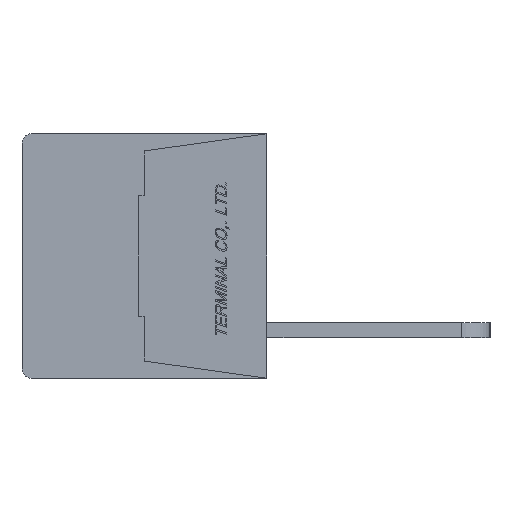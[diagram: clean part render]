
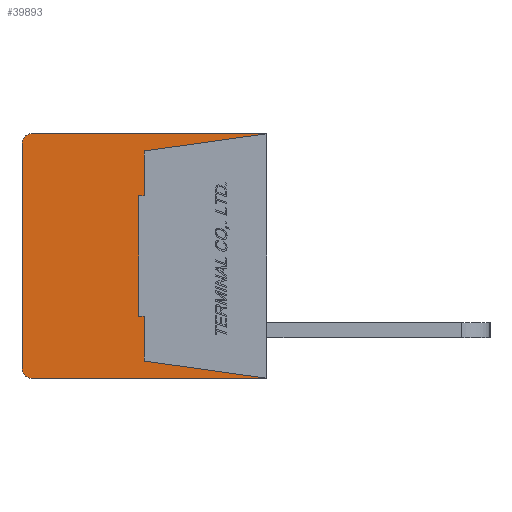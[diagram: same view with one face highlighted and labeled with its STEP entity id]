
A CAD part, left-side view. The second image highlights one B-rep face of the part: STEP entity #39893.
In plain terms, the highlighted planar face has unit normal (-1, 0, 0).
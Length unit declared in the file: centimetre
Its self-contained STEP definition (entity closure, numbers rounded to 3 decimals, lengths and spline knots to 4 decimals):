
#2053=CIRCLE('',#68344,0.05);
#2054=CIRCLE('',#68347,0.05);
#3551=VERTEX_POINT('',#55407);
#3552=VERTEX_POINT('',#55409);
#3553=VERTEX_POINT('',#55413);
#3554=VERTEX_POINT('',#55417);
#3555=VERTEX_POINT('',#55421);
#3556=VERTEX_POINT('',#55425);
#3557=VERTEX_POINT('',#55429);
#3558=VERTEX_POINT('',#55431);
#3559=VERTEX_POINT('',#55433);
#3560=VERTEX_POINT('',#55435);
#3561=VERTEX_POINT('',#55437);
#3562=VERTEX_POINT('',#55439);
#7746=VECTOR('',#46283,1.);
#7750=VECTOR('',#46292,1.);
#7753=VECTOR('',#46300,1.);
#7754=VECTOR('',#46302,1.);
#7755=VECTOR('',#46303,1.);
#7756=VECTOR('',#46304,1.);
#7757=VECTOR('',#46305,1.);
#7758=VECTOR('',#46306,1.);
#7759=VECTOR('',#46307,1.);
#7760=VECTOR('',#46308,1.);
#12407=LINE('',#55408,#7746);
#12411=LINE('',#55418,#7750);
#12414=LINE('',#55426,#7753);
#12415=LINE('',#55428,#7754);
#12416=LINE('',#55430,#7755);
#12417=LINE('',#55432,#7756);
#12418=LINE('',#55434,#7757);
#12419=LINE('',#55436,#7758);
#12420=LINE('',#55438,#7759);
#12421=LINE('',#55440,#7760);
#17614=EDGE_CURVE('',#3552,#3551,#12407,.T.);
#17617=EDGE_CURVE('',#3553,#3551,#2053,.T.);
#17619=EDGE_CURVE('',#3553,#3554,#12411,.T.);
#17621=EDGE_CURVE('',#3555,#3554,#2054,.T.);
#17623=EDGE_CURVE('',#3555,#3556,#12414,.T.);
#17624=EDGE_CURVE('',#3557,#3552,#12415,.T.);
#17625=EDGE_CURVE('',#3556,#3558,#12416,.T.);
#17626=EDGE_CURVE('',#3558,#3559,#12417,.T.);
#17627=EDGE_CURVE('',#3559,#3560,#12418,.T.);
#17628=EDGE_CURVE('',#3560,#3561,#12419,.T.);
#17629=EDGE_CURVE('',#3561,#3562,#12420,.T.);
#17630=EDGE_CURVE('',#3562,#3557,#12421,.T.);
#25662=ORIENTED_EDGE('',*,*,#17624,.T.);
#25663=ORIENTED_EDGE('',*,*,#17614,.T.);
#25664=ORIENTED_EDGE('',*,*,#17617,.F.);
#25665=ORIENTED_EDGE('',*,*,#17619,.T.);
#25666=ORIENTED_EDGE('',*,*,#17621,.F.);
#25667=ORIENTED_EDGE('',*,*,#17623,.T.);
#25668=ORIENTED_EDGE('',*,*,#17625,.T.);
#25669=ORIENTED_EDGE('',*,*,#17626,.T.);
#25670=ORIENTED_EDGE('',*,*,#17627,.T.);
#25671=ORIENTED_EDGE('',*,*,#17628,.T.);
#25672=ORIENTED_EDGE('',*,*,#17629,.T.);
#25673=ORIENTED_EDGE('',*,*,#17630,.T.);
#34695=EDGE_LOOP('',(#25662,#25663,#25664,#25665,#25666,#25667,#25668,#25669,
#25670,#25671,#25672,#25673));
#37370=FACE_BOUND('',#34695,.T.);
#39893=ADVANCED_FACE('',(#37370),#42072,.F.);
#42072=PLANE('',#68349);
#46283=DIRECTION('',(0.,1.,0.));
#46288=DIRECTION('',(1.,0.,0.));
#46289=DIRECTION('',(0.,0.,-0.05));
#46292=DIRECTION('',(0.,0.,-1.));
#46296=DIRECTION('',(1.,0.,0.));
#46297=DIRECTION('',(0.,0.,-0.05));
#46300=DIRECTION('',(0.,-1.,0.));
#46301=DIRECTION('',(1.,0.,0.));
#46302=DIRECTION('',(0.,-0.99,0.139));
#46303=DIRECTION('',(0.,0.99,0.139));
#46304=DIRECTION('',(0.,0.,1.));
#46305=DIRECTION('',(0.,1.,0.));
#46306=DIRECTION('',(0.,0.,1.));
#46307=DIRECTION('',(0.,-1.,0.));
#46308=DIRECTION('',(0.,0.,1.));
#55407=CARTESIAN_POINT('',(-1.,1.23,0.64));
#55408=CARTESIAN_POINT('',(-1.,0.,0.64));
#55409=CARTESIAN_POINT('',(-1.,0.,0.64));
#55413=CARTESIAN_POINT('',(-1.,1.28,0.59));
#55414=CARTESIAN_POINT('',(-1.,1.23,0.59));
#55417=CARTESIAN_POINT('',(-1.,1.28,-0.59));
#55418=CARTESIAN_POINT('',(-1.,1.28,0.59));
#55421=CARTESIAN_POINT('',(-1.,1.23,-0.64));
#55422=CARTESIAN_POINT('',(-1.,1.23,-0.59));
#55425=CARTESIAN_POINT('',(-1.,0.,-0.64));
#55426=CARTESIAN_POINT('',(-1.,1.23,-0.64));
#55427=CARTESIAN_POINT('',(-1.,0.6345,0.));
#55428=CARTESIAN_POINT('',(-1.,0.64,0.55));
#55429=CARTESIAN_POINT('',(-1.,0.64,0.55));
#55430=CARTESIAN_POINT('',(-1.,0.,-0.64));
#55431=CARTESIAN_POINT('',(-1.,0.64,-0.55));
#55432=CARTESIAN_POINT('',(-1.,0.64,-0.55));
#55433=CARTESIAN_POINT('',(-1.,0.64,-0.315));
#55434=CARTESIAN_POINT('',(-1.,0.64,-0.315));
#55435=CARTESIAN_POINT('',(-1.,0.67,-0.315));
#55436=CARTESIAN_POINT('',(-1.,0.67,-0.315));
#55437=CARTESIAN_POINT('',(-1.,0.67,0.315));
#55438=CARTESIAN_POINT('',(-1.,0.67,0.315));
#55439=CARTESIAN_POINT('',(-1.,0.64,0.315));
#55440=CARTESIAN_POINT('',(-1.,0.64,0.315));
#68344=AXIS2_PLACEMENT_3D('',#55414,#46288,#46289);
#68347=AXIS2_PLACEMENT_3D('',#55422,#46296,#46297);
#68349=AXIS2_PLACEMENT_3D('',#55427,#46301,$);
